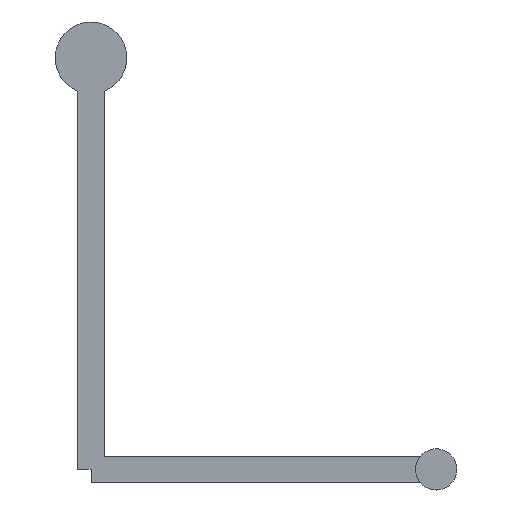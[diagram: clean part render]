
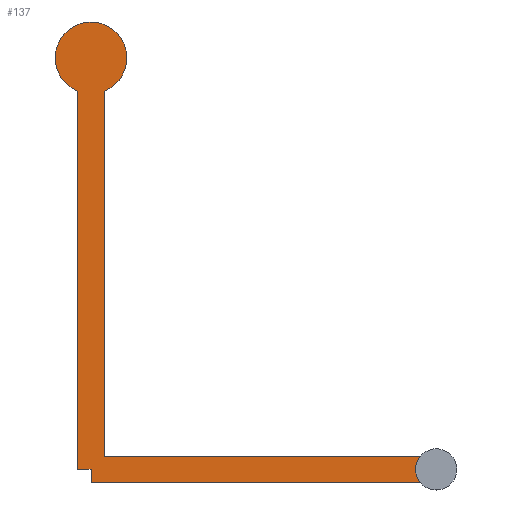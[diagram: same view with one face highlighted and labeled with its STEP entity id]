
A CAD part, top view. The second image highlights one B-rep face of the part: STEP entity #137.
In plain terms, the highlighted planar face has unit normal (0, 0, 1).
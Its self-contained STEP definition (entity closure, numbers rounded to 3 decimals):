
#21 = EDGE_CURVE('',#22,#24,#26,.T.);
#22 = VERTEX_POINT('',#23);
#23 = CARTESIAN_POINT('',(-27.,-16.,9.65));
#24 = VERTEX_POINT('',#25);
#25 = CARTESIAN_POINT('',(-27.,12.492,9.65));
#26 = SURFACE_CURVE('',#27,(#31,#43),.PCURVE_S1.);
#27 = LINE('',#28,#29);
#28 = CARTESIAN_POINT('',(-27.,-16.,9.65));
#29 = VECTOR('',#30,1.);
#30 = DIRECTION('',(0.,1.,0.));
#31 = PCURVE('',#32,#37);
#32 = PLANE('',#33);
#33 = AXIS2_PLACEMENT_3D('',#34,#35,#36);
#34 = CARTESIAN_POINT('',(-27.,-16.,9.05));
#35 = DIRECTION('',(1.,0.,0.));
#36 = DIRECTION('',(0.,0.,1.));
#37 = DEFINITIONAL_REPRESENTATION('',(#38),#42);
#38 = LINE('',#39,#40);
#39 = CARTESIAN_POINT('',(0.6,0.));
#40 = VECTOR('',#41,1.);
#41 = DIRECTION('',(0.,-1.));
#42 = ( GEOMETRIC_REPRESENTATION_CONTEXT(2) 
PARAMETRIC_REPRESENTATION_CONTEXT() REPRESENTATION_CONTEXT('2D SPACE',''
  ) );
#43 = PCURVE('',#44,#49);
#44 = PLANE('',#45);
#45 = AXIS2_PLACEMENT_3D('',#46,#47,#48);
#46 = CARTESIAN_POINT('',(-27.,-16.,9.65));
#47 = DIRECTION('',(0.,0.,1.));
#48 = DIRECTION('',(1.,0.,0.));
#49 = DEFINITIONAL_REPRESENTATION('',(#50),#54);
#50 = LINE('',#51,#52);
#51 = CARTESIAN_POINT('',(0.,0.));
#52 = VECTOR('',#53,1.);
#53 = DIRECTION('',(0.,1.));
#54 = ( GEOMETRIC_REPRESENTATION_CONTEXT(2) 
PARAMETRIC_REPRESENTATION_CONTEXT() REPRESENTATION_CONTEXT('2D SPACE',''
  ) );
#72 = PLANE('',#73);
#73 = AXIS2_PLACEMENT_3D('',#74,#75,#76);
#74 = CARTESIAN_POINT('',(-27.,-16.,9.05));
#75 = DIRECTION('',(0.,1.,0.));
#76 = DIRECTION('',(0.,0.,1.));
#126 = CYLINDRICAL_SURFACE('',#127,2.7);
#127 = AXIS2_PLACEMENT_3D('',#128,#129,#130);
#128 = CARTESIAN_POINT('',(-26.,15.,9.05));
#129 = DIRECTION('',(-0.,-0.,-1.));
#130 = DIRECTION('',(1.,0.,0.));
#137 = ADVANCED_FACE('',(#138),#44,.T.);
#138 = FACE_BOUND('',#139,.T.);
#139 = EDGE_LOOP('',(#140,#170,#198,#220,#221,#244,#272,#300));
#140 = ORIENTED_EDGE('',*,*,#141,.F.);
#141 = EDGE_CURVE('',#142,#144,#146,.T.);
#142 = VERTEX_POINT('',#143);
#143 = CARTESIAN_POINT('',(-25.,-15.,9.65));
#144 = VERTEX_POINT('',#145);
#145 = CARTESIAN_POINT('',(-1.184,-15.,9.65));
#146 = SURFACE_CURVE('',#147,(#151,#158),.PCURVE_S1.);
#147 = LINE('',#148,#149);
#148 = CARTESIAN_POINT('',(-26.,-15.,9.65));
#149 = VECTOR('',#150,1.);
#150 = DIRECTION('',(1.,0.,0.));
#151 = PCURVE('',#44,#152);
#152 = DEFINITIONAL_REPRESENTATION('',(#153),#157);
#153 = LINE('',#154,#155);
#154 = CARTESIAN_POINT('',(1.,1.));
#155 = VECTOR('',#156,1.);
#156 = DIRECTION('',(1.,0.));
#157 = ( GEOMETRIC_REPRESENTATION_CONTEXT(2) 
PARAMETRIC_REPRESENTATION_CONTEXT() REPRESENTATION_CONTEXT('2D SPACE',''
  ) );
#158 = PCURVE('',#159,#164);
#159 = PLANE('',#160);
#160 = AXIS2_PLACEMENT_3D('',#161,#162,#163);
#161 = CARTESIAN_POINT('',(-26.,-15.,9.05));
#162 = DIRECTION('',(0.,1.,0.));
#163 = DIRECTION('',(0.,0.,1.));
#164 = DEFINITIONAL_REPRESENTATION('',(#165),#169);
#165 = LINE('',#166,#167);
#166 = CARTESIAN_POINT('',(0.6,0.));
#167 = VECTOR('',#168,1.);
#168 = DIRECTION('',(0.,1.));
#169 = ( GEOMETRIC_REPRESENTATION_CONTEXT(2) 
PARAMETRIC_REPRESENTATION_CONTEXT() REPRESENTATION_CONTEXT('2D SPACE',''
  ) );
#170 = ORIENTED_EDGE('',*,*,#171,.T.);
#171 = EDGE_CURVE('',#142,#172,#174,.T.);
#172 = VERTEX_POINT('',#173);
#173 = CARTESIAN_POINT('',(-25.,12.492,9.65));
#174 = SURFACE_CURVE('',#175,(#179,#186),.PCURVE_S1.);
#175 = LINE('',#176,#177);
#176 = CARTESIAN_POINT('',(-25.,-16.,9.65));
#177 = VECTOR('',#178,1.);
#178 = DIRECTION('',(0.,1.,0.));
#179 = PCURVE('',#44,#180);
#180 = DEFINITIONAL_REPRESENTATION('',(#181),#185);
#181 = LINE('',#182,#183);
#182 = CARTESIAN_POINT('',(2.,0.));
#183 = VECTOR('',#184,1.);
#184 = DIRECTION('',(0.,1.));
#185 = ( GEOMETRIC_REPRESENTATION_CONTEXT(2) 
PARAMETRIC_REPRESENTATION_CONTEXT() REPRESENTATION_CONTEXT('2D SPACE',''
  ) );
#186 = PCURVE('',#187,#192);
#187 = PLANE('',#188);
#188 = AXIS2_PLACEMENT_3D('',#189,#190,#191);
#189 = CARTESIAN_POINT('',(-25.,-16.,9.05));
#190 = DIRECTION('',(1.,0.,0.));
#191 = DIRECTION('',(0.,0.,1.));
#192 = DEFINITIONAL_REPRESENTATION('',(#193),#197);
#193 = LINE('',#194,#195);
#194 = CARTESIAN_POINT('',(0.6,0.));
#195 = VECTOR('',#196,1.);
#196 = DIRECTION('',(0.,-1.));
#197 = ( GEOMETRIC_REPRESENTATION_CONTEXT(2) 
PARAMETRIC_REPRESENTATION_CONTEXT() REPRESENTATION_CONTEXT('2D SPACE',''
  ) );
#198 = ORIENTED_EDGE('',*,*,#199,.T.);
#199 = EDGE_CURVE('',#172,#24,#200,.T.);
#200 = SURFACE_CURVE('',#201,(#206,#213),.PCURVE_S1.);
#201 = CIRCLE('',#202,2.7);
#202 = AXIS2_PLACEMENT_3D('',#203,#204,#205);
#203 = CARTESIAN_POINT('',(-26.,15.,9.65));
#204 = DIRECTION('',(-0.,0.,1.));
#205 = DIRECTION('',(0.37,-0.929,0.));
#206 = PCURVE('',#44,#207);
#207 = DEFINITIONAL_REPRESENTATION('',(#208),#212);
#208 = CIRCLE('',#209,2.7);
#209 = AXIS2_PLACEMENT_2D('',#210,#211);
#210 = CARTESIAN_POINT('',(1.,31.));
#211 = DIRECTION('',(0.37,-0.929));
#212 = ( GEOMETRIC_REPRESENTATION_CONTEXT(2) 
PARAMETRIC_REPRESENTATION_CONTEXT() REPRESENTATION_CONTEXT('2D SPACE',''
  ) );
#213 = PCURVE('',#126,#214);
#214 = DEFINITIONAL_REPRESENTATION('',(#215),#219);
#215 = LINE('',#216,#217);
#216 = CARTESIAN_POINT('',(-5.092,-0.6));
#217 = VECTOR('',#218,1.);
#218 = DIRECTION('',(-1.,0.));
#219 = ( GEOMETRIC_REPRESENTATION_CONTEXT(2) 
PARAMETRIC_REPRESENTATION_CONTEXT() REPRESENTATION_CONTEXT('2D SPACE',''
  ) );
#220 = ORIENTED_EDGE('',*,*,#21,.F.);
#221 = ORIENTED_EDGE('',*,*,#222,.T.);
#222 = EDGE_CURVE('',#22,#223,#225,.T.);
#223 = VERTEX_POINT('',#224);
#224 = CARTESIAN_POINT('',(-26.,-16.,9.65));
#225 = SURFACE_CURVE('',#226,(#230,#237),.PCURVE_S1.);
#226 = LINE('',#227,#228);
#227 = CARTESIAN_POINT('',(-27.,-16.,9.65));
#228 = VECTOR('',#229,1.);
#229 = DIRECTION('',(1.,0.,0.));
#230 = PCURVE('',#44,#231);
#231 = DEFINITIONAL_REPRESENTATION('',(#232),#236);
#232 = LINE('',#233,#234);
#233 = CARTESIAN_POINT('',(0.,0.));
#234 = VECTOR('',#235,1.);
#235 = DIRECTION('',(1.,0.));
#236 = ( GEOMETRIC_REPRESENTATION_CONTEXT(2) 
PARAMETRIC_REPRESENTATION_CONTEXT() REPRESENTATION_CONTEXT('2D SPACE',''
  ) );
#237 = PCURVE('',#72,#238);
#238 = DEFINITIONAL_REPRESENTATION('',(#239),#243);
#239 = LINE('',#240,#241);
#240 = CARTESIAN_POINT('',(0.6,0.));
#241 = VECTOR('',#242,1.);
#242 = DIRECTION('',(0.,1.));
#243 = ( GEOMETRIC_REPRESENTATION_CONTEXT(2) 
PARAMETRIC_REPRESENTATION_CONTEXT() REPRESENTATION_CONTEXT('2D SPACE',''
  ) );
#244 = ORIENTED_EDGE('',*,*,#245,.F.);
#245 = EDGE_CURVE('',#246,#223,#248,.T.);
#246 = VERTEX_POINT('',#247);
#247 = CARTESIAN_POINT('',(-26.,-17.,9.65));
#248 = SURFACE_CURVE('',#249,(#253,#260),.PCURVE_S1.);
#249 = LINE('',#250,#251);
#250 = CARTESIAN_POINT('',(-26.,-17.,9.65));
#251 = VECTOR('',#252,1.);
#252 = DIRECTION('',(0.,1.,0.));
#253 = PCURVE('',#44,#254);
#254 = DEFINITIONAL_REPRESENTATION('',(#255),#259);
#255 = LINE('',#256,#257);
#256 = CARTESIAN_POINT('',(1.,-1.));
#257 = VECTOR('',#258,1.);
#258 = DIRECTION('',(0.,1.));
#259 = ( GEOMETRIC_REPRESENTATION_CONTEXT(2) 
PARAMETRIC_REPRESENTATION_CONTEXT() REPRESENTATION_CONTEXT('2D SPACE',''
  ) );
#260 = PCURVE('',#261,#266);
#261 = PLANE('',#262);
#262 = AXIS2_PLACEMENT_3D('',#263,#264,#265);
#263 = CARTESIAN_POINT('',(-26.,-17.,9.05));
#264 = DIRECTION('',(1.,0.,0.));
#265 = DIRECTION('',(0.,0.,1.));
#266 = DEFINITIONAL_REPRESENTATION('',(#267),#271);
#267 = LINE('',#268,#269);
#268 = CARTESIAN_POINT('',(0.6,0.));
#269 = VECTOR('',#270,1.);
#270 = DIRECTION('',(0.,-1.));
#271 = ( GEOMETRIC_REPRESENTATION_CONTEXT(2) 
PARAMETRIC_REPRESENTATION_CONTEXT() REPRESENTATION_CONTEXT('2D SPACE',''
  ) );
#272 = ORIENTED_EDGE('',*,*,#273,.T.);
#273 = EDGE_CURVE('',#246,#274,#276,.T.);
#274 = VERTEX_POINT('',#275);
#275 = CARTESIAN_POINT('',(-1.184,-17.,9.65));
#276 = SURFACE_CURVE('',#277,(#281,#288),.PCURVE_S1.);
#277 = LINE('',#278,#279);
#278 = CARTESIAN_POINT('',(-26.,-17.,9.65));
#279 = VECTOR('',#280,1.);
#280 = DIRECTION('',(1.,0.,0.));
#281 = PCURVE('',#44,#282);
#282 = DEFINITIONAL_REPRESENTATION('',(#283),#287);
#283 = LINE('',#284,#285);
#284 = CARTESIAN_POINT('',(1.,-1.));
#285 = VECTOR('',#286,1.);
#286 = DIRECTION('',(1.,0.));
#287 = ( GEOMETRIC_REPRESENTATION_CONTEXT(2) 
PARAMETRIC_REPRESENTATION_CONTEXT() REPRESENTATION_CONTEXT('2D SPACE',''
  ) );
#288 = PCURVE('',#289,#294);
#289 = PLANE('',#290);
#290 = AXIS2_PLACEMENT_3D('',#291,#292,#293);
#291 = CARTESIAN_POINT('',(-26.,-17.,9.05));
#292 = DIRECTION('',(0.,1.,0.));
#293 = DIRECTION('',(0.,0.,1.));
#294 = DEFINITIONAL_REPRESENTATION('',(#295),#299);
#295 = LINE('',#296,#297);
#296 = CARTESIAN_POINT('',(0.6,0.));
#297 = VECTOR('',#298,1.);
#298 = DIRECTION('',(0.,1.));
#299 = ( GEOMETRIC_REPRESENTATION_CONTEXT(2) 
PARAMETRIC_REPRESENTATION_CONTEXT() REPRESENTATION_CONTEXT('2D SPACE',''
  ) );
#300 = ORIENTED_EDGE('',*,*,#301,.T.);
#301 = EDGE_CURVE('',#274,#144,#302,.T.);
#302 = SURFACE_CURVE('',#303,(#308,#319),.PCURVE_S1.);
#303 = CIRCLE('',#304,1.55);
#304 = AXIS2_PLACEMENT_3D('',#305,#306,#307);
#305 = CARTESIAN_POINT('',(0.,-16.,9.65));
#306 = DIRECTION('',(0.,0.,-1.));
#307 = DIRECTION('',(1.,0.,0.));
#308 = PCURVE('',#44,#309);
#309 = DEFINITIONAL_REPRESENTATION('',(#310),#318);
#310 = ( BOUNDED_CURVE() B_SPLINE_CURVE(2,(#311,#312,#313,#314,#315,#316
,#317),.UNSPECIFIED.,.T.,.F.) B_SPLINE_CURVE_WITH_KNOTS((1,2,2,2,2,1),(
    -2.094,0.,2.094,4.189,6.283,
8.378),.UNSPECIFIED.) CURVE() GEOMETRIC_REPRESENTATION_ITEM() 
RATIONAL_B_SPLINE_CURVE((1.,0.5,1.,0.5,1.,0.5,1.)) REPRESENTATION_ITEM(
  '') );
#311 = CARTESIAN_POINT('',(28.55,0.));
#312 = CARTESIAN_POINT('',(28.55,-2.685));
#313 = CARTESIAN_POINT('',(26.225,-1.342));
#314 = CARTESIAN_POINT('',(23.9,0.));
#315 = CARTESIAN_POINT('',(26.225,1.342));
#316 = CARTESIAN_POINT('',(28.55,2.685));
#317 = CARTESIAN_POINT('',(28.55,0.));
#318 = ( GEOMETRIC_REPRESENTATION_CONTEXT(2) 
PARAMETRIC_REPRESENTATION_CONTEXT() REPRESENTATION_CONTEXT('2D SPACE',''
  ) );
#319 = PCURVE('',#320,#325);
#320 = CYLINDRICAL_SURFACE('',#321,1.55);
#321 = AXIS2_PLACEMENT_3D('',#322,#323,#324);
#322 = CARTESIAN_POINT('',(0.,-16.,9.05));
#323 = DIRECTION('',(-0.,-0.,-1.));
#324 = DIRECTION('',(1.,0.,0.));
#325 = DEFINITIONAL_REPRESENTATION('',(#326),#330);
#326 = LINE('',#327,#328);
#327 = CARTESIAN_POINT('',(-6.283,-0.6));
#328 = VECTOR('',#329,1.);
#329 = DIRECTION('',(1.,-0.));
#330 = ( GEOMETRIC_REPRESENTATION_CONTEXT(2) 
PARAMETRIC_REPRESENTATION_CONTEXT() REPRESENTATION_CONTEXT('2D SPACE',''
  ) );
